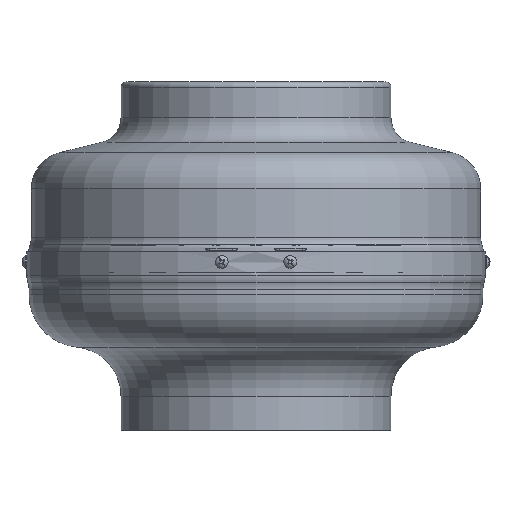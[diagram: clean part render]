
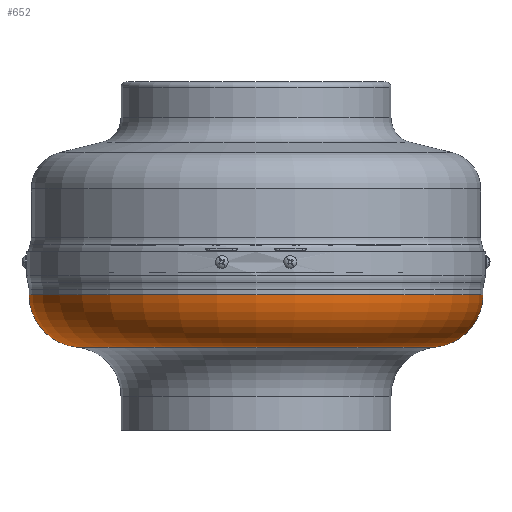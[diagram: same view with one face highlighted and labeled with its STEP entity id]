
A CAD part, front view. The second image highlights one B-rep face of the part: STEP entity #652.
In plain terms, the highlighted toroidal (fillet/blend) face has major radius 102.7 mm and minor radius 31 mm.
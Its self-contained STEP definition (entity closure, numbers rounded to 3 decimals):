
#652 = ADVANCED_FACE ( 'NONE', ( #5156 ), #5155, .T. ) ;
#690 = VERTEX_POINT ( 'NONE', #3663 ) ;
#1779 = ORIENTED_EDGE ( 'NONE', *, *, #2376, .F. ) ;
#1780 = ORIENTED_EDGE ( 'NONE', *, *, #2375, .T. ) ;
#1781 = ORIENTED_EDGE ( 'NONE', *, *, #2380, .T. ) ;
#1782 = ORIENTED_EDGE ( 'NONE', *, *, #3602, .F. ) ;
#2139 = CARTESIAN_POINT ( 'NONE',  ( 0., 0., -44.136 ) ) ;
#2140 = DIRECTION ( 'NONE',  ( 0., 0., 1. ) ) ;
#2141 = DIRECTION ( 'NONE',  ( 1., 0., 0. ) ) ;
#2143 = CARTESIAN_POINT ( 'NONE',  ( -102.7, 0., -13.281 ) ) ;
#2144 = DIRECTION ( 'NONE',  ( 0., 1., 0. ) ) ;
#2145 = DIRECTION ( 'NONE',  ( -1., 0., 0. ) ) ;
#2153 = CARTESIAN_POINT ( 'NONE',  ( 102.7, 0., -13.281 ) ) ;
#2154 = DIRECTION ( 'NONE',  ( 0., -1., 0. ) ) ;
#2155 = DIRECTION ( 'NONE',  ( 1., 0., 0. ) ) ;
#2375 = EDGE_CURVE ( 'NONE', #13455, #690, #5217, .T. ) ;
#2376 = EDGE_CURVE ( 'NONE', #13455, #4579, #5218, .T. ) ;
#2380 = EDGE_CURVE ( 'NONE', #690, #4707, #5225, .T. ) ;
#3404 = CARTESIAN_POINT ( 'NONE',  ( -105.697, 0., -44.136 ) ) ;
#3602 = EDGE_CURVE ( 'NONE', #4579, #4707, #12615, .T. ) ;
#3663 = CARTESIAN_POINT ( 'NONE',  ( 105.697, 0., -44.136 ) ) ;
#3943 = AXIS2_PLACEMENT_3D ( 'NONE', #5914, #5915, #5916 ) ;
#4579 = VERTEX_POINT ( 'NONE', #7590 ) ;
#4707 = VERTEX_POINT ( 'NONE', #7656 ) ;
#5155 = TOROIDAL_SURFACE ( 'NONE', #9767, 102.7, 31. ) ;
#5156 = FACE_OUTER_BOUND ( 'NONE', #8847, .T. ) ;
#5217 = CIRCLE ( 'NONE', #9698, 105.697 ) ;
#5218 = CIRCLE ( 'NONE', #9508, 31. ) ;
#5225 = CIRCLE ( 'NONE', #9635, 31. ) ;
#5914 = CARTESIAN_POINT ( 'NONE',  ( 0., 0., -13.281 ) ) ;
#5915 = DIRECTION ( 'NONE',  ( 0., 0., 1. ) ) ;
#5916 = DIRECTION ( 'NONE',  ( 1., 0., 0. ) ) ;
#6813 = DIRECTION ( 'NONE',  ( 0., 0., 1. ) ) ;
#6815 = CARTESIAN_POINT ( 'NONE',  ( 0., 0., -13.281 ) ) ;
#6818 = DIRECTION ( 'NONE',  ( 1., 0., 0. ) ) ;
#7590 = CARTESIAN_POINT ( 'NONE',  ( -133.7, 0., -13.281 ) ) ;
#7656 = CARTESIAN_POINT ( 'NONE',  ( 133.7, 0., -13.281 ) ) ;
#8847 = EDGE_LOOP ( 'NONE', ( #1779, #1780, #1781, #1782 ) ) ;
#9508 = AXIS2_PLACEMENT_3D ( 'NONE', #2143, #2144, #2145 ) ;
#9635 = AXIS2_PLACEMENT_3D ( 'NONE', #2153, #2154, #2155 ) ;
#9698 = AXIS2_PLACEMENT_3D ( 'NONE', #2139, #2140, #2141 ) ;
#9767 = AXIS2_PLACEMENT_3D ( 'NONE', #6815, #6813, #6818 ) ;
#12615 = CIRCLE ( 'NONE', #3943, 133.7 ) ;
#13455 = VERTEX_POINT ( 'NONE', #3404 ) ;
